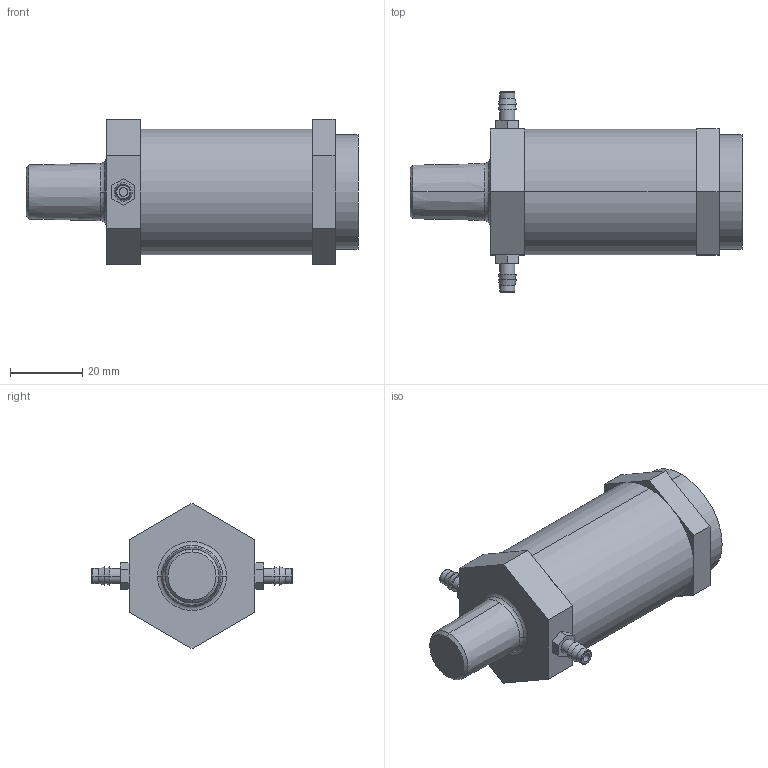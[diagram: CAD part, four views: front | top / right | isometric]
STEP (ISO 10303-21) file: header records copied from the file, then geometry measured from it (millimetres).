
FILE_DESCRIPTION((''),'2;1');
FILE_NAME('UCR3_ASM','2017-08-24T',('jennifer.elliott'),('CenterLine (Windsor) Ltd - Automation Components Division'),'PRO/ENGINEER BY PARAMETRIC TECHNOLOGY CORPORATION, 2015030','PRO/ENGINEER BY PARAMETRIC TECHNOLOGY CORPORATION, 2015030','');
FILE_SCHEMA(('AUTOMOTIVE_DESIGN { 1 0 10303 214 1 1 1 1 }'));
Length unit declared in the file: inch
Products named in the file (7): PRT0070; PRT0071; PRT0072; PRT0073; PRT0074; PRT0075; UCR3_ASM
Assembly tree (6 placements, depth 2):
  UCR3_ASM
    PRT0070
    PRT0071
    PRT0072
    PRT0073
    PRT0074
    PRT0075
Bounding box: 92.08 x 55.55 x 40.33 mm (x, y, z)
Volume: 71932.6 mm3; surface area: 17130.3 mm2
Topology: 6 solids, 6 shells, 83 faces, 177 edges, 113 vertices
Faces by surface type: plane 43, cylinder 16, torus 12, cone 12
Entity records: 2699 total; most frequent: DIRECTION 446, CARTESIAN_POINT 405, ORIENTED_EDGE 354, EDGE_CURVE 177, AXIS2_PLACEMENT_3D 173, VERTEX_POINT 113, VECTOR 100, LINE 100
